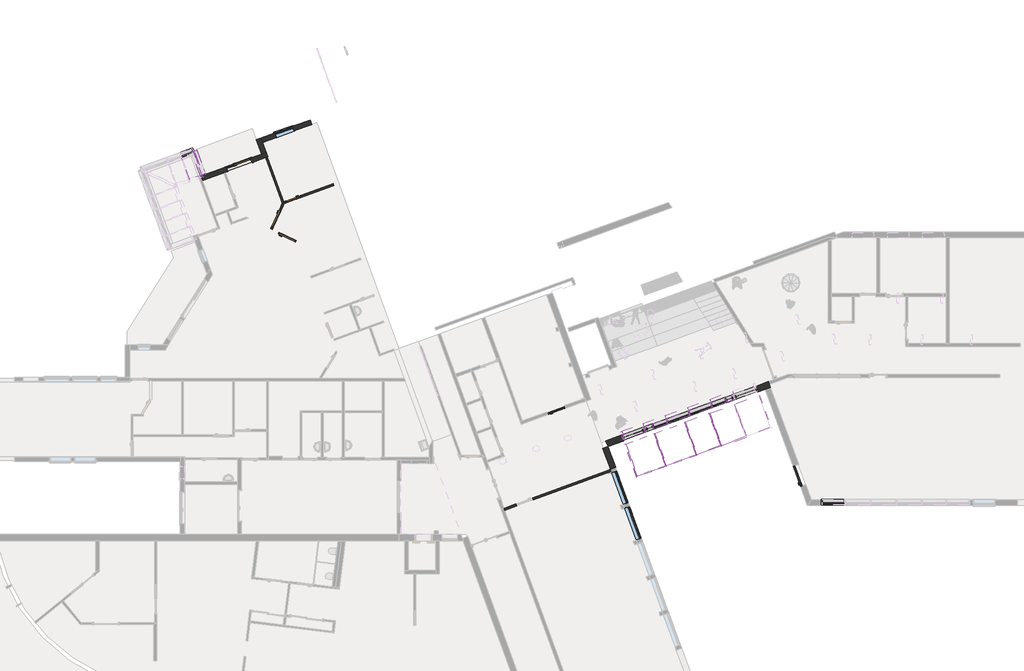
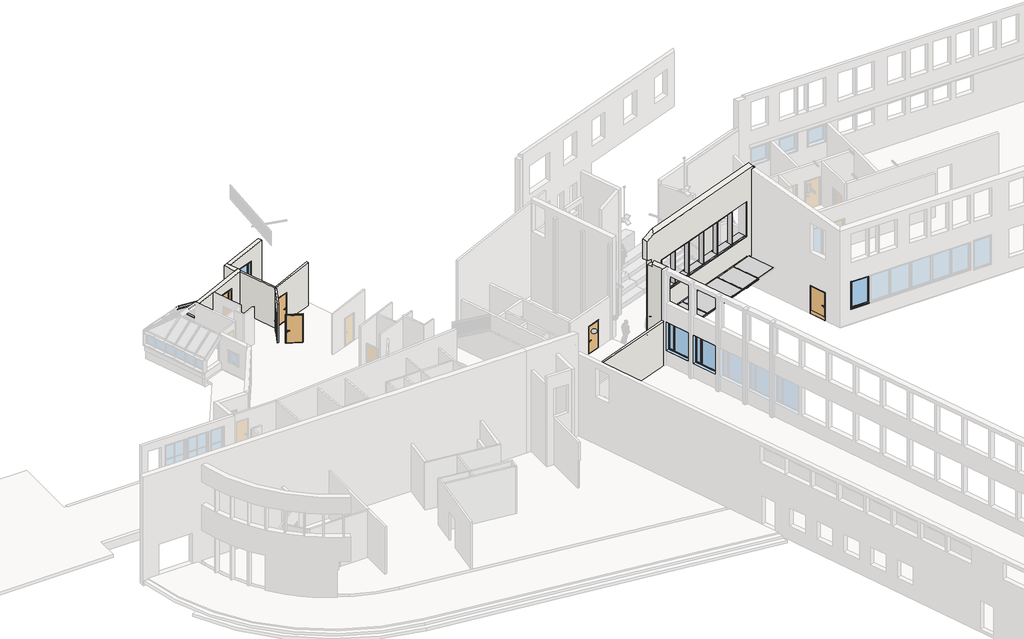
# One storey, part 9 of 13: 51 members, 13 walls, 11 doors, 6 plates, 6 windows.
"""IFC4 building model written with IfcOpenShell, lengths in millimetres."""

from ifc_helpers import new_model, si_unit, frame, origin, place, context, project, spatial, polyline, outline, extrude, faceted_brep, transform, mapped, element, save
from components import door_10x21_f2746e1a, door_11x21_133cae72, door_11x21_32893f3e, door_4x21_9b28eff4, door_9x21_316ed650, door_sgl_ex_12x21m_tre_kledning_16f67397, m_curtain_wall_sgl_glass_m_curtain_wall_sgl_glass_8ad9dc3e, m_curtain_wall_sgl_glass_m_curtain_wall_sgl_glass_723613c0, m_curtain_wall_sgl_glass_m_curtain_wall_sgl_glass_b9642ed1, m_curtain_wall_sgl_glass_m_curtain_wall_sgl_glass_abddcc44, rectangular_mullion_100_x_500mm_ae4d4c62, rectangular_mullion_100_x_500mm_b3343f74, rectangular_mullion_100_x_500mm_26d26932, rectangular_mullion_50_x_100mm_46c47fc3, rectangular_mullion_50_x_100mm_dbebb1b2, rectangular_mullion_50_x_100mm_ab75951c, rectangular_mullion_50_x_100mm_7429a864, rectangular_mullion_50_x_100mm_168a4457, rectangular_mullion_50_x_100mm_9513a79f, rectangular_mullion_50_x_100mm_c09c87a4, rectangular_mullion_50_x_100mm_cream_28181c7c, rectangular_mullion_50_x_100mm_cream_3a46165d, rectangular_mullion_50_x_150mm_21f2cfc2, rectangular_mullion_50_x_150mm_be18659e, rectangular_mullion_50_x_150mm_b6e7ad0f, rectangular_mullion_50_x_150mm_c4449b0d, rectangular_mullion_50_x_150mm_49e73c1b, rectangular_mullion_50_x_150mm_053de50f, rectangular_mullion_50_x_50mm_b0cb055a, rectangular_mullion_50_x_50mm_a40bebd4, rectangular_mullion_50_x_50mm_f585af09, rectangular_mullion_50_x_50mm_df29dcbb, rectangular_mullion_50_x_50mm_cc18e0a2, rectangular_mullion_50_x_50mm_b55e1ea5, system_panel_glazed_14bef62c, system_panel_glazed_47bd4e19, system_panel_glazed_3bba1568, system_panel_glazed_70b2b260, window_11x13_gh_121f46ad, window_193x212_1140f226, curtain_wall_awning_curtain_wall_awning_72255bb9, curtain_wall_awning_curtain_wall_awning_dec480bf

model = new_model("IFC4")

# Units and contexts
model_context = context("Model", 3, world=origin())
ifc_project = project(units=[si_unit("LENGTHUNIT", "METRE", prefix="MILLI")], contexts=[model_context])

# Site, building, storey
site = spatial("IfcSite", under=ifc_project)
building = spatial("IfcBuilding", under=site)
storey = spatial("IfcBuildingStorey", under=building, Name="1.0 første etg hovedbygg", Elevation=2500.0)

# Doors
placement = place(None, origin())
door_10x21_shape = door_10x21_f2746e1a(model_context)
element("IfcDoor", 1, ObjectType="Innerdør Slett (Diplomat) : 10x21", at=placement, inside=storey, context=model_context, shape_type="MappedRepresentation", body=[
    mapped(door_10x21_shape, transform((32133.6013591, 6953.5347889, 2500.0), x_axis=(-0.9396920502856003, -0.34202171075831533, 0.0), y_axis=(0.34202171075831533, -0.9396920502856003, 0.0), z_axis=(0.0, 0.0, 1.0))),
])
door_11x21_shape = door_11x21_133cae72(model_context)
element("IfcDoor", 2, ObjectType="Innerdør Slett (Diplomat) : 11x21", at=placement, inside=storey, context=model_context, shape_type="MappedRepresentation", body=[
    mapped(door_11x21_shape, transform((16839.1118708, 16742.0659295, 2500.0), x_axis=(-0.9063077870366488, 0.42261826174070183, 0.0), y_axis=(-0.42261826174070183, -0.9063077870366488, 0.0), z_axis=(0.0, 0.0, 1.0))),
])
element("IfcDoor", 3, ObjectType="Innerdør Slett (Diplomat) : 11x21", at=placement, inside=storey, context=model_context, shape_type="MappedRepresentation", body=[
    mapped(door_11x21_shape, transform((16157.6992822, 17773.2804728, 2500.0), x_axis=(0.4226182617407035, 0.9063077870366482, 0.0), y_axis=(-0.9063077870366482, 0.4226182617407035, 0.0), z_axis=(0.0, 0.0, 1.0))),
])
door_11x21_2_shape = door_11x21_32893f3e(model_context)
element("IfcDoor", 4, ObjectType="FPS Bangstad : 11x21", at=placement, inside=storey, context=model_context, shape_type="MappedRepresentation", body=[
    mapped(door_11x21_2_shape, transform((14292.2898842, 20967.2185526, 2500.0), x_axis=(-0.9396926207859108, -0.3420201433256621, 0.0), y_axis=(0.3420201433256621, -0.9396926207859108, 0.0), z_axis=(0.0, 0.0, 1.0))),
])
door_4x21_shape = door_4x21_9b28eff4(model_context)
element("IfcDoor", 5, ObjectType="Sidefelt HS : 4x21", at=placement, inside=storey, context=model_context, shape_type="MappedRepresentation", body=[
    mapped(door_4x21_shape, transform((13835.6283287, 20801.0073393, 2500.0), x_axis=(0.9396926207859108, 0.3420201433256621, 0.0), y_axis=(-0.3420201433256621, 0.9396926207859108, 0.0), z_axis=(0.0, 0.0, 1.0))),
])
door_9x21_shape = door_9x21_316ed650(model_context)
element("IfcDoor", 6, ObjectType="Innerdør Slett (Diplomat) : 9x21", at=placement, inside=storey, context=model_context, shape_type="MappedRepresentation", body=[
    mapped(door_9x21_shape, transform((17087.7649507, 18902.2322108, 2500.0), x_axis=(0.9396926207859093, 0.3420201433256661, 0.0), y_axis=(-0.3420201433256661, 0.9396926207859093, 0.0), z_axis=(0.0, 0.0, 1.0))),
])
door_sgl_ex_12x21m_tre_kledning_shape = door_sgl_ex_12x21m_tre_kledning_16f67397(model_context)
element("IfcDoor", 7, ObjectType="Door-Sgl : EX 12x21M_tre kledning", at=placement, inside=storey, context=model_context, shape_type="MappedRepresentation", body=[
    mapped(door_sgl_ex_12x21m_tre_kledning_shape, transform((45900.4377172, 3224.6967646, 2500.0), x_axis=(-0.3420201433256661, 0.9396926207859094, 0.0), y_axis=(-0.9396926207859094, -0.3420201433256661, 0.0), z_axis=(0.0, 0.0, 1.0))),
])
m_curtain_wall_sgl_glass_m_curtain_wall_sgl_glass_shape = m_curtain_wall_sgl_glass_m_curtain_wall_sgl_glass_8ad9dc3e(model_context)
element("IfcDoor", 8, ObjectType="M_Curtain Wall Sgl Glass : M_Curtain Wall Sgl Glass", at=placement, inside=storey, context=model_context, shape_type="MappedRepresentation", body=[
    mapped(m_curtain_wall_sgl_glass_m_curtain_wall_sgl_glass_shape, transform((36496.3007628, 5592.0420433, 2550.0), x_axis=(-0.9396919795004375, -0.3420219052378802, 0.0), y_axis=(0.3420219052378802, -0.9396919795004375, 0.0), z_axis=(0.0, 0.0, 1.0))),
])
m_curtain_wall_sgl_glass_m_curtain_wall_sgl_glass_2_shape = m_curtain_wall_sgl_glass_m_curtain_wall_sgl_glass_723613c0(model_context)
element("IfcDoor", 9, ObjectType="M_Curtain Wall Sgl Glass : M_Curtain Wall Sgl Glass", at=placement, inside=storey, context=model_context, shape_type="MappedRepresentation", body=[
    mapped(m_curtain_wall_sgl_glass_m_curtain_wall_sgl_glass_2_shape, transform((37353.7696941, 5904.1370318, 2550.0), x_axis=(0.9396919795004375, 0.3420219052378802, 0.0), y_axis=(-0.3420219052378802, 0.9396919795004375, 0.0), z_axis=(0.0, 0.0, 1.0))),
])
m_curtain_wall_sgl_glass_m_curtain_wall_sgl_glass_3_shape = m_curtain_wall_sgl_glass_m_curtain_wall_sgl_glass_b9642ed1(model_context)
element("IfcDoor", 10, ObjectType="M_Curtain Wall Sgl Glass : M_Curtain Wall Sgl Glass", at=placement, inside=storey, context=model_context, shape_type="MappedRepresentation", body=[
    mapped(m_curtain_wall_sgl_glass_m_curtain_wall_sgl_glass_3_shape, transform((42815.7293249, 7892.139356, 2550.0), x_axis=(0.9396919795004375, 0.3420219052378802, 0.0), y_axis=(-0.3420219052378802, 0.9396919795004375, 0.0), z_axis=(0.0, 0.0, 1.0))),
])
m_curtain_wall_sgl_glass_m_curtain_wall_sgl_glass_4_shape = m_curtain_wall_sgl_glass_m_curtain_wall_sgl_glass_abddcc44(model_context)
element("IfcDoor", 11, ObjectType="M_Curtain Wall Sgl Glass : M_Curtain Wall Sgl Glass", at=placement, inside=storey, context=model_context, shape_type="MappedRepresentation", body=[
    mapped(m_curtain_wall_sgl_glass_m_curtain_wall_sgl_glass_4_shape, transform((41958.2603936, 7580.0443675, 2550.0), x_axis=(-0.9396919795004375, -0.3420219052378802, 0.0), y_axis=(0.3420219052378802, -0.9396919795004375, 0.0), z_axis=(0.0, 0.0, 1.0))),
])

# Members
rectangular_mullion_100_x_500mm_shape = rectangular_mullion_100_x_500mm_ae4d4c62(model_context)
element("IfcMember", 12, ObjectType="Rectangular Mullion : 100 x 500mm", at=placement, inside=storey, context=model_context, shape_type="MappedRepresentation", body=[
    mapped(rectangular_mullion_100_x_500mm_shape, transform((42193.1833885, 7665.5498438, 6370.0), x_axis=(0.0, 0.0, -1.0), y_axis=(0.34202190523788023, -0.9396919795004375, 0.0), z_axis=(-0.9396919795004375, -0.34202190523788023, 0.0))),
])
rectangular_mullion_100_x_500mm_2_shape = rectangular_mullion_100_x_500mm_b3343f74(model_context)
element("IfcMember", 13, ObjectType="Rectangular Mullion : 100 x 500mm", at=placement, inside=storey, context=model_context, shape_type="MappedRepresentation", body=[
    mapped(rectangular_mullion_100_x_500mm_2_shape, transform((38387.4308715, 6280.3611276, 8970.0), x_axis=(0.0, 0.0, 1.0), y_axis=(0.34202190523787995, -0.9396919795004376, 0.0), z_axis=(0.9396919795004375, 0.3420219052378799, 0.0))),
])
element("IfcMember", 14, ObjectType="Rectangular Mullion : 100 x 500mm", at=placement, inside=storey, context=model_context, shape_type="MappedRepresentation", body=[
    mapped(rectangular_mullion_100_x_500mm_2_shape, transform((39656.0150438, 6742.0906997, 8970.0), x_axis=(0.0, 0.0, 1.0), y_axis=(0.34202190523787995, -0.9396919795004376, 0.0), z_axis=(0.9396919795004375, 0.3420219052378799, 0.0))),
])
element("IfcMember", 15, ObjectType="Rectangular Mullion : 100 x 500mm", at=placement, inside=storey, context=model_context, shape_type="MappedRepresentation", body=[
    mapped(rectangular_mullion_100_x_500mm_2_shape, transform((42193.1833885, 7665.5498438, 8970.0), x_axis=(0.0, 0.0, 1.0), y_axis=(0.34202190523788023, -0.9396919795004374, 0.0), z_axis=(0.9396919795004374, 0.34202190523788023, 0.0))),
])
element("IfcMember", 16, ObjectType="Rectangular Mullion : 100 x 500mm", at=placement, inside=storey, context=model_context, shape_type="MappedRepresentation", body=[
    mapped(rectangular_mullion_100_x_500mm_2_shape, transform((40924.5992162, 7203.8202717, 8970.0), x_axis=(0.0, 0.0, 1.0), y_axis=(0.34202190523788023, -0.9396919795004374, 0.0), z_axis=(0.9396919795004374, 0.34202190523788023, 0.0))),
])
element("IfcMember", 17, ObjectType="Rectangular Mullion : 100 x 500mm", at=placement, inside=storey, context=model_context, shape_type="MappedRepresentation", body=[
    mapped(rectangular_mullion_100_x_500mm_2_shape, transform((37118.8466992, 5818.6315555, 6370.0), x_axis=(0.0, 0.0, -1.0), y_axis=(0.34202190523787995, -0.9396919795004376, 0.0), z_axis=(-0.9396919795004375, -0.3420219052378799, 0.0))),
])
element("IfcMember", 18, ObjectType="Rectangular Mullion : 100 x 500mm", at=placement, inside=storey, context=model_context, shape_type="MappedRepresentation", body=[
    mapped(rectangular_mullion_100_x_500mm_2_shape, transform((38387.4308715, 6280.3611276, 6370.0), x_axis=(0.0, 0.0, -1.0), y_axis=(0.34202190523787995, -0.9396919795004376, 0.0), z_axis=(-0.9396919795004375, -0.3420219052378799, 0.0))),
])
element("IfcMember", 19, ObjectType="Rectangular Mullion : 100 x 500mm", at=placement, inside=storey, context=model_context, shape_type="MappedRepresentation", body=[
    mapped(rectangular_mullion_100_x_500mm_2_shape, transform((39656.0150438, 6742.0906997, 6370.0), x_axis=(0.0, 0.0, -1.0), y_axis=(0.342021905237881, -0.9396919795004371, 0.0), z_axis=(-0.9396919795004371, -0.342021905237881, 0.0))),
])
element("IfcMember", 20, ObjectType="Rectangular Mullion : 100 x 500mm", at=placement, inside=storey, context=model_context, shape_type="MappedRepresentation", body=[
    mapped(rectangular_mullion_100_x_500mm_2_shape, transform((40924.5992162, 7203.8202717, 6370.0), x_axis=(0.0, 0.0, -1.0), y_axis=(0.34202190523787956, -0.9396919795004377, 0.0), z_axis=(-0.9396919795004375, -0.3420219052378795, 0.0))),
])
element("IfcMember", 21, ObjectType="Rectangular Mullion : 100 x 500mm", at=placement, inside=storey, context=model_context, shape_type="MappedRepresentation", body=[
    mapped(rectangular_mullion_100_x_500mm_shape, transform((37118.8466992, 5818.6315555, 8970.0), x_axis=(0.0, 0.0, 1.0), y_axis=(0.34202190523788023, -0.9396919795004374, 0.0), z_axis=(0.9396919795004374, 0.34202190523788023, 0.0))),
])
element("IfcMember", 22, ObjectType="Rectangular Mullion : 100 x 500mm", at=placement, inside=storey, context=model_context, shape_type="MappedRepresentation", body=[
    mapped(rectangular_mullion_100_x_500mm_shape, transform((35944.2317248, 5391.104174, 6370.0), x_axis=(0.0, 0.0, -1.0), y_axis=(0.34202190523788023, -0.9396919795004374, 0.0), z_axis=(-0.9396919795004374, -0.34202190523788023, 0.0))),
])
rectangular_mullion_100_x_500mm_3_shape = rectangular_mullion_100_x_500mm_26d26932(model_context)
element("IfcMember", 23, ObjectType="Rectangular Mullion : 100 x 500mm", at=placement, inside=storey, context=model_context, shape_type="MappedRepresentation", body=[
    mapped(rectangular_mullion_100_x_500mm_3_shape, transform((35850.2625269, 5356.9019835, 8970.0), x_axis=(-0.9396919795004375, -0.3420219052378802, 0.0), y_axis=(0.3420219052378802, -0.9396919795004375, 0.0), z_axis=(0.0, 0.0, 1.0))),
])
rectangular_mullion_50_x_100mm_shape = rectangular_mullion_50_x_100mm_46c47fc3(model_context)
element("IfcMember", 24, ObjectType="Rectangular Mullion : 50 x 100mm", at=placement, inside=storey, context=model_context, shape_type="MappedRepresentation", body=[
    mapped(rectangular_mullion_50_x_100mm_shape, transform((12000.3678831, 20273.4986309, 4978.5236025), x_axis=(0.3420201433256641, -0.9396926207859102, 0.0), y_axis=(0.9396926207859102, 0.3420201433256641, 0.0), z_axis=(0.0, 0.0, 1.0))),
])
rectangular_mullion_50_x_100mm_2_shape = rectangular_mullion_50_x_100mm_dbebb1b2(model_context)
element("IfcMember", 25, ObjectType="Rectangular Mullion : 50 x 100mm", at=placement, inside=storey, context=model_context, shape_type="MappedRepresentation", body=[
    mapped(rectangular_mullion_50_x_100mm_2_shape, transform((11492.1185252, 21669.9022651, 3938.0), x_axis=(0.9396926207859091, 0.3420201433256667, 0.0), y_axis=(-0.3420201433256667, 0.9396926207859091, 0.0), z_axis=(0.0, 0.0, 1.0))),
])
rectangular_mullion_50_x_100mm_3_shape = rectangular_mullion_50_x_100mm_ab75951c(model_context)
element("IfcMember", 26, ObjectType="Rectangular Mullion : 50 x 100mm", at=placement, inside=storey, context=model_context, shape_type="MappedRepresentation", body=[
    mapped(rectangular_mullion_50_x_100mm_3_shape, transform((12000.3678831, 20273.4986309, 3900.0), x_axis=(0.3420201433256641, -0.9396926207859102, 0.0), y_axis=(0.9396926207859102, 0.3420201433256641, 0.0), z_axis=(0.0, 0.0, 1.0))),
])
rectangular_mullion_50_x_100mm_4_shape = rectangular_mullion_50_x_100mm_7429a864(model_context)
element("IfcMember", 27, ObjectType="Rectangular Mullion : 50 x 100mm", at=placement, inside=storey, context=model_context, shape_type="MappedRepresentation", body=[
    mapped(rectangular_mullion_50_x_100mm_4_shape, transform((11492.1185252, 21669.9022651, 3900.0), x_axis=(-0.3420201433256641, 0.9396926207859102, 0.0), y_axis=(0.9396926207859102, 0.3420201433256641, 0.0), z_axis=(0.0, 0.0, -1.0))),
])
rectangular_mullion_50_x_100mm_5_shape = rectangular_mullion_50_x_100mm_168a4457(model_context)
element("IfcMember", 28, ObjectType="Rectangular Mullion : 50 x 100mm", at=placement, inside=storey, context=model_context, shape_type="MappedRepresentation", body=[
    mapped(rectangular_mullion_50_x_100mm_5_shape, transform((11509.2195324, 21622.917634, 3900.0), x_axis=(0.0, 0.0, 1.0), y_axis=(0.9396926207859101, 0.34202014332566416, 0.0), z_axis=(-0.34202014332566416, 0.9396926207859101, 0.0))),
])
rectangular_mullion_50_x_100mm_6_shape = rectangular_mullion_50_x_100mm_9513a79f(model_context)
element("IfcMember", 29, ObjectType="Rectangular Mullion : 50 x 100mm", at=placement, inside=storey, context=model_context, shape_type="MappedRepresentation", body=[
    mapped(rectangular_mullion_50_x_100mm_6_shape, transform((47141.6718408, 1682.166916, 5650.0), x_axis=(-1.0, 0.0, 0.0), y_axis=(0.0, -1.0, 0.0), z_axis=(0.0, 0.0, 1.0))),
])
rectangular_mullion_50_x_100mm_7_shape = rectangular_mullion_50_x_100mm_c09c87a4(model_context)
element("IfcMember", 30, ObjectType="Rectangular Mullion : 50 x 100mm", at=placement, inside=storey, context=model_context, shape_type="MappedRepresentation", body=[
    mapped(rectangular_mullion_50_x_100mm_7_shape, transform((11515.6108407, 21678.4527686, 3938.0), x_axis=(0.9396926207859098, 0.3420201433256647, 0.0), y_axis=(0.1961746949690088, -0.5389855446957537, -0.8191520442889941), z_axis=(-0.28016649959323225, 0.7697511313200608, -0.5735764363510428))),
])
rectangular_mullion_50_x_100mm_cream_shape = rectangular_mullion_50_x_100mm_cream_28181c7c(model_context)
element("IfcMember", 31, ObjectType="Rectangular Mullion : 50 x 100mm Cream", at=placement, inside=storey, context=model_context, shape_type="MappedRepresentation", body=[
    mapped(rectangular_mullion_50_x_100mm_cream_shape, transform((41746.8296982, 7503.0894388, 2500.0), x_axis=(0.0, 0.0, -1.0), y_axis=(0.34202190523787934, -0.9396919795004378, 0.0), z_axis=(-0.9396919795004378, -0.34202190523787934, 0.0))),
])
rectangular_mullion_50_x_100mm_cream_2_shape = rectangular_mullion_50_x_100mm_cream_3a46165d(model_context)
element("IfcMember", 32, ObjectType="Rectangular Mullion : 50 x 100mm Cream", at=placement, inside=storey, context=model_context, shape_type="MappedRepresentation", body=[
    mapped(rectangular_mullion_50_x_100mm_cream_2_shape, transform((42193.1833885, 7665.5498438, 2500.0), x_axis=(0.0, 0.0, -1.0), y_axis=(0.34202190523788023, -0.9396919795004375, 0.0), z_axis=(-0.9396919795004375, -0.34202190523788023, 0.0))),
])
element("IfcMember", 33, ObjectType="Rectangular Mullion : 50 x 100mm Cream", at=placement, inside=storey, context=model_context, shape_type="MappedRepresentation", body=[
    mapped(rectangular_mullion_50_x_100mm_cream_shape, transform((37118.8466992, 5818.6315555, 2500.0), x_axis=(0.0, 0.0, -1.0), y_axis=(0.34202190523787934, -0.9396919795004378, 0.0), z_axis=(-0.9396919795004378, -0.34202190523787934, 0.0))),
])
element("IfcMember", 34, ObjectType="Rectangular Mullion : 50 x 100mm Cream", at=placement, inside=storey, context=model_context, shape_type="MappedRepresentation", body=[
    mapped(rectangular_mullion_50_x_100mm_cream_2_shape, transform((35897.2471258, 5374.0030787, 2500.0), x_axis=(0.0, 0.0, -1.0), y_axis=(0.34202190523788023, -0.9396919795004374, 0.0), z_axis=(-0.9396919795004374, -0.34202190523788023, 0.0))),
])
rectangular_mullion_50_x_150mm_shape = rectangular_mullion_50_x_150mm_21f2cfc2(model_context)
element("IfcMember", 35, ObjectType="Rectangular Mullion : 50 x 150mm", at=placement, inside=storey, context=model_context, shape_type="MappedRepresentation", body=[
    mapped(rectangular_mullion_50_x_150mm_shape, transform((11492.1185252, 21669.9022651, 3938.0), x_axis=(-0.19617469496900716, 0.5389855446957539, 0.8191520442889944), y_axis=(0.9396926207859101, 0.34202014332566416, 0.0), z_axis=(-0.28016649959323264, 0.7697511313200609, -0.5735764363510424))),
])
rectangular_mullion_50_x_150mm_2_shape = rectangular_mullion_50_x_150mm_be18659e(model_context)
element("IfcMember", 36, ObjectType="Rectangular Mullion : 50 x 150mm", at=placement, inside=storey, context=model_context, shape_type="MappedRepresentation", body=[
    mapped(rectangular_mullion_50_x_150mm_2_shape, transform((11445.1338942, 21652.8012579, 3000.0), x_axis=(0.0, 0.0, -1.0), y_axis=(-0.3420201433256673, 0.9396926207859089, 0.0), z_axis=(0.9396926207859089, 0.3420201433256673, 0.0))),
])
rectangular_mullion_50_x_150mm_3_shape = rectangular_mullion_50_x_150mm_b6e7ad0f(model_context)
element("IfcMember", 37, ObjectType="Rectangular Mullion : 50 x 150mm", at=placement, inside=storey, context=model_context, shape_type="MappedRepresentation", body=[
    mapped(rectangular_mullion_50_x_150mm_3_shape, transform((37588.6926889, 5989.6425081, 2500.0), x_axis=(0.9396919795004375, 0.3420219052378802, 0.0), y_axis=(0.3420219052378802, -0.9396919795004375, 0.0), z_axis=(0.0, 0.0, -1.0))),
])
element("IfcMember", 38, ObjectType="Rectangular Mullion : 50 x 150mm", at=placement, inside=storey, context=model_context, shape_type="MappedRepresentation", body=[
    mapped(rectangular_mullion_50_x_150mm_3_shape, transform((39656.0150438, 6742.0906997, 2500.0), x_axis=(0.9396919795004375, 0.3420219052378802, 0.0), y_axis=(0.3420219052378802, -0.9396919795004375, 0.0), z_axis=(0.0, 0.0, -1.0))),
])
element("IfcMember", 39, ObjectType="Rectangular Mullion : 50 x 150mm", at=placement, inside=storey, context=model_context, shape_type="MappedRepresentation", body=[
    mapped(rectangular_mullion_50_x_150mm_3_shape, transform((41723.3373987, 7494.5388912, 2500.0), x_axis=(0.9396919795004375, 0.3420219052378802, 0.0), y_axis=(0.3420219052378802, -0.9396919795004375, 0.0), z_axis=(0.0, 0.0, -1.0))),
])
rectangular_mullion_50_x_150mm_4_shape = rectangular_mullion_50_x_150mm_c4449b0d(model_context)
element("IfcMember", 40, ObjectType="Rectangular Mullion : 50 x 150mm", at=placement, inside=storey, context=model_context, shape_type="MappedRepresentation", body=[
    mapped(rectangular_mullion_50_x_150mm_4_shape, transform((39632.5227444, 6733.540152, 4900.0), x_axis=(0.0, 0.0, 1.0), y_axis=(0.34202190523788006, -0.9396919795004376, 0.0), z_axis=(0.9396919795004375, 0.34202190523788, 0.0))),
])
element("IfcMember", 41, ObjectType="Rectangular Mullion : 50 x 150mm", at=placement, inside=storey, context=model_context, shape_type="MappedRepresentation", body=[
    mapped(rectangular_mullion_50_x_150mm_4_shape, transform((41699.8450993, 7485.9883436, 4900.0), x_axis=(0.0, 0.0, 1.0), y_axis=(0.3420219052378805, -0.9396919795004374, 0.0), z_axis=(0.9396919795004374, 0.3420219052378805, 0.0))),
])
element("IfcMember", 42, ObjectType="Rectangular Mullion : 50 x 150mm", at=placement, inside=storey, context=model_context, shape_type="MappedRepresentation", body=[
    mapped(rectangular_mullion_50_x_150mm_4_shape, transform((37612.1849884, 5998.1930558, 2500.0), x_axis=(0.0, 0.0, -1.0), y_axis=(0.34202190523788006, -0.9396919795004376, 0.0), z_axis=(-0.9396919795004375, -0.34202190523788, 0.0))),
])
element("IfcMember", 43, ObjectType="Rectangular Mullion : 50 x 150mm", at=placement, inside=storey, context=model_context, shape_type="MappedRepresentation", body=[
    mapped(rectangular_mullion_50_x_150mm_4_shape, transform((39679.5073433, 6750.6412473, 2500.0), x_axis=(0.0, 0.0, -1.0), y_axis=(0.3420219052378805, -0.9396919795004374, 0.0), z_axis=(-0.9396919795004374, -0.3420219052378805, 0.0))),
])
element("IfcMember", 44, ObjectType="Rectangular Mullion : 50 x 150mm", at=placement, inside=storey, context=model_context, shape_type="MappedRepresentation", body=[
    mapped(rectangular_mullion_50_x_100mm_cream_2_shape, transform((37118.8466992, 5818.6315555, 4900.0), x_axis=(0.0, 0.0, 1.0), y_axis=(0.34202190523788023, -0.9396919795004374, 0.0), z_axis=(0.9396919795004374, 0.34202190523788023, 0.0))),
])
element("IfcMember", 45, ObjectType="Rectangular Mullion : 50 x 150mm", at=placement, inside=storey, context=model_context, shape_type="MappedRepresentation", body=[
    mapped(rectangular_mullion_50_x_100mm_cream_shape, transform((37565.2003894, 5981.0919605, 4900.0), x_axis=(0.0, 0.0, 1.0), y_axis=(0.34202190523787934, -0.9396919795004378, 0.0), z_axis=(0.9396919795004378, 0.34202190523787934, 0.0))),
])
element("IfcMember", 46, ObjectType="Rectangular Mullion : 50 x 150mm", at=placement, inside=storey, context=model_context, shape_type="MappedRepresentation", body=[
    mapped(rectangular_mullion_50_x_100mm_cream_shape, transform((42193.1833885, 7665.5498438, 4900.0), x_axis=(0.0, 0.0, 1.0), y_axis=(0.34202190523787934, -0.9396919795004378, 0.0), z_axis=(0.9396919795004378, 0.34202190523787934, 0.0))),
])
rectangular_mullion_50_x_150mm_5_shape = rectangular_mullion_50_x_150mm_49e73c1b(model_context)
element("IfcMember", 47, ObjectType="Rectangular Mullion : 50 x 150mm", at=placement, inside=storey, context=model_context, shape_type="MappedRepresentation", body=[
    mapped(rectangular_mullion_50_x_150mm_5_shape, transform((35850.2625269, 5356.9019835, 4900.0), x_axis=(-0.9396919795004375, -0.3420219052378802, 0.0), y_axis=(0.3420219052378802, -0.9396919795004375, 0.0), z_axis=(0.0, 0.0, 1.0))),
])
element("IfcMember", 48, ObjectType="Rectangular Mullion : 50 x 150mm", at=placement, inside=storey, context=model_context, shape_type="MappedRepresentation", body=[
    mapped(rectangular_mullion_50_x_150mm_3_shape, transform((37118.8466992, 5818.6315555, 6470.0), x_axis=(0.9396919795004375, 0.3420219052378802, 0.0), y_axis=(0.3420219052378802, -0.9396919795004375, 0.0), z_axis=(0.0, 0.0, -1.0))),
])
element("IfcMember", 49, ObjectType="Rectangular Mullion : 50 x 150mm", at=placement, inside=storey, context=model_context, shape_type="MappedRepresentation", body=[
    mapped(rectangular_mullion_50_x_150mm_3_shape, transform((38387.4308715, 6280.3611276, 6470.0), x_axis=(0.9396919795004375, 0.3420219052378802, 0.0), y_axis=(0.3420219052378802, -0.9396919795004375, 0.0), z_axis=(0.0, 0.0, -1.0))),
])
element("IfcMember", 50, ObjectType="Rectangular Mullion : 50 x 150mm", at=placement, inside=storey, context=model_context, shape_type="MappedRepresentation", body=[
    mapped(rectangular_mullion_50_x_150mm_3_shape, transform((39656.0150438, 6742.0906997, 6470.0), x_axis=(0.9396919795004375, 0.3420219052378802, 0.0), y_axis=(0.3420219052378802, -0.9396919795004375, 0.0), z_axis=(0.0, 0.0, -1.0))),
])
element("IfcMember", 51, ObjectType="Rectangular Mullion : 50 x 150mm", at=placement, inside=storey, context=model_context, shape_type="MappedRepresentation", body=[
    mapped(rectangular_mullion_50_x_150mm_3_shape, transform((42193.1833885, 7665.5498438, 6470.0), x_axis=(0.9396919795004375, 0.3420219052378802, 0.0), y_axis=(0.3420219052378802, -0.9396919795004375, 0.0), z_axis=(0.0, 0.0, -1.0))),
])
element("IfcMember", 52, ObjectType="Rectangular Mullion : 50 x 150mm", at=placement, inside=storey, context=model_context, shape_type="MappedRepresentation", body=[
    mapped(rectangular_mullion_50_x_150mm_3_shape, transform((40924.5992162, 7203.8202717, 6470.0), x_axis=(0.9396919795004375, 0.3420219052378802, 0.0), y_axis=(0.3420219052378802, -0.9396919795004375, 0.0), z_axis=(0.0, 0.0, -1.0))),
])
rectangular_mullion_50_x_150mm_6_shape = rectangular_mullion_50_x_150mm_053de50f(model_context)
element("IfcMember", 53, ObjectType="Rectangular Mullion : 50 x 150mm", at=placement, inside=storey, context=model_context, shape_type="MappedRepresentation", body=[
    mapped(rectangular_mullion_50_x_150mm_6_shape, transform((47191.6718408, 1682.166916, 3550.0), x_axis=(0.0, 0.0, -1.0), y_axis=(0.0, -1.0, 0.0), z_axis=(-1.0, 0.0, 0.0))),
])
rectangular_mullion_50_x_50mm_shape = rectangular_mullion_50_x_50mm_b0cb055a(model_context)
element("IfcMember", 54, ObjectType="Rectangular Mullion : 50 x 50mm", at=placement, inside=storey, context=model_context, shape_type="MappedRepresentation", body=[
    mapped(rectangular_mullion_50_x_50mm_shape, transform((37118.8466992, 5818.6315555, 2550.0), x_axis=(0.9396919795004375, 0.3420219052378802, 0.0), y_axis=(0.3420219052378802, -0.9396919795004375, 0.0), z_axis=(0.0, 0.0, -1.0))),
])
rectangular_mullion_50_x_50mm_2_shape = rectangular_mullion_50_x_50mm_a40bebd4(model_context)
element("IfcMember", 55, ObjectType="Rectangular Mullion : 50 x 50mm", at=placement, inside=storey, context=model_context, shape_type="MappedRepresentation", body=[
    mapped(rectangular_mullion_50_x_50mm_2_shape, transform((37670.2282592, 5619.2049731, 5000.0), x_axis=(0.9396926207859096, 0.3420201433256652, 0.0), y_axis=(0.0, 0.0, -1.0), z_axis=(-0.3420201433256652, 0.9396926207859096, 0.0))),
])
rectangular_mullion_50_x_50mm_3_shape = rectangular_mullion_50_x_50mm_f585af09(model_context)
element("IfcMember", 56, ObjectType="Rectangular Mullion : 50 x 50mm", at=placement, inside=storey, context=model_context, shape_type="MappedRepresentation", body=[
    mapped(rectangular_mullion_50_x_50mm_3_shape, transform((42911.7773583, 5398.6185288, 5000.0), x_axis=(0.3420200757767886, -0.9396926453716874, 0.0), y_axis=(0.0, 0.0, -1.0), z_axis=(0.9396926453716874, 0.3420200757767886, 0.0))),
])
element("IfcMember", 57, ObjectType="Rectangular Mullion : 50 x 50mm", at=placement, inside=storey, context=model_context, shape_type="MappedRepresentation", body=[
    mapped(rectangular_mullion_50_x_50mm_3_shape, transform((41484.009957, 4898.1088941, 5000.0), x_axis=(0.34202007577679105, -0.9396926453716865, 0.0), y_axis=(0.0, 0.0, -1.0), z_axis=(0.9396926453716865, 0.34202007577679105, 0.0))),
])
element("IfcMember", 58, ObjectType="Rectangular Mullion : 50 x 50mm", at=placement, inside=storey, context=model_context, shape_type="MappedRepresentation", body=[
    mapped(rectangular_mullion_50_x_50mm_2_shape, transform((40799.9696703, 6777.4941357, 5000.0), x_axis=(0.9396926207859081, 0.3420201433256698, 0.0), y_axis=(0.0, 0.0, -1.0), z_axis=(-0.3420201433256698, 0.9396926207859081, 0.0))),
])
rectangular_mullion_50_x_50mm_4_shape = rectangular_mullion_50_x_50mm_df29dcbb(model_context)
element("IfcMember", 59, ObjectType="Rectangular Mullion : 50 x 50mm", at=placement, inside=storey, context=model_context, shape_type="MappedRepresentation", body=[
    mapped(rectangular_mullion_50_x_50mm_4_shape, transform((40092.6994959, 4372.5580988, 5000.0), x_axis=(0.34202007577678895, -0.9396926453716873, 0.0), y_axis=(0.0, 0.0, -1.0), z_axis=(0.9396926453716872, 0.3420200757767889, 0.0))),
])
element("IfcMember", 60, ObjectType="Rectangular Mullion : 50 x 50mm", at=placement, inside=storey, context=model_context, shape_type="MappedRepresentation", body=[
    mapped(rectangular_mullion_50_x_50mm_2_shape, transform((39408.6592093, 6251.9433404, 5000.0), x_axis=(0.9396926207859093, 0.34202014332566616, 0.0), y_axis=(0.0, 0.0, -1.0), z_axis=(-0.34202014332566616, 0.9396926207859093, 0.0))),
])
rectangular_mullion_50_x_50mm_5_shape = rectangular_mullion_50_x_50mm_cc18e0a2(model_context)
element("IfcMember", 61, ObjectType="Rectangular Mullion : 50 x 50mm", at=placement, inside=storey, context=model_context, shape_type="MappedRepresentation", body=[
    mapped(rectangular_mullion_50_x_50mm_5_shape, transform((38354.2685459, 3739.8197315, 5000.0), x_axis=(0.3420200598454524, -0.9396926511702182, 0.0), y_axis=(0.0, 0.0, -1.0), z_axis=(0.939692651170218, 0.34202005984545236, 0.0))),
])
rectangular_mullion_50_x_50mm_6_shape = rectangular_mullion_50_x_50mm_b55e1ea5(model_context)
element("IfcMember", 62, ObjectType="Rectangular Mullion : 50 x 50mm", at=placement, inside=storey, context=model_context, shape_type="MappedRepresentation", body=[
    mapped(rectangular_mullion_50_x_50mm_6_shape, transform((36662.8215552, 3124.1835442, 5000.0), x_axis=(-0.9396926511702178, -0.3420200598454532, 0.0), y_axis=(0.0, 0.0, -1.0), z_axis=(0.3420200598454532, -0.9396926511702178, 0.0))),
])

# Plates
system_panel_glazed_shape = system_panel_glazed_14bef62c(model_context)
element("IfcPlate", 63, ObjectType="System Panel : Glazed", at=placement, inside=storey, context=model_context, shape_type="MappedRepresentation", body=[
    mapped(system_panel_glazed_shape, transform((11133.6522684, 21495.8450477, 3966.6788218), x_axis=(-0.9396926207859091, -0.3420201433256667, 0.0), y_axis=(0.1961746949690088, -0.5389855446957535, -0.8191520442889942), z_axis=(0.2801664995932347, -0.7697511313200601, 0.5735764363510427))),
])
system_panel_glazed_2_shape = system_panel_glazed_47bd4e19(model_context)
element("IfcPlate", 64, ObjectType="System Panel : Glazed", at=placement, inside=storey, context=model_context, shape_type="MappedRepresentation", body=[
    mapped(system_panel_glazed_2_shape, transform((43236.3276211, 5462.5175269, 5000.0), x_axis=(1.0, 0.0, 0.0), y_axis=(0.0, 0.0, -1.0), z_axis=(0.0, 1.0, 0.0))),
])
element("IfcPlate", 65, ObjectType="System Panel : Glazed", at=placement, inside=storey, context=model_context, shape_type="MappedRepresentation", body=[
    mapped(system_panel_glazed_2_shape, transform((41832.9449788, 4932.5730474, 5000.0), x_axis=(1.0, 0.0, 0.0), y_axis=(0.0, 0.0, -1.0), z_axis=(0.0, 1.0, 0.0))),
])
element("IfcPlate", 66, ObjectType="System Panel : Glazed", at=placement, inside=storey, context=model_context, shape_type="MappedRepresentation", body=[
    mapped(system_panel_glazed_2_shape, transform((40405.1775774, 4432.0634127, 5000.0), x_axis=(1.0, 0.0, 0.0), y_axis=(0.0, 0.0, -1.0), z_axis=(0.0, 1.0, 0.0))),
])
system_panel_glazed_3_shape = system_panel_glazed_3bba1568(model_context)
element("IfcPlate", 67, ObjectType="System Panel : Glazed", at=placement, inside=storey, context=model_context, shape_type="MappedRepresentation", body=[
    mapped(system_panel_glazed_3_shape, transform((38849.5399376, 3786.8922406, 5000.0), x_axis=(1.0, 0.0, 0.0), y_axis=(0.0, 0.0, -1.0), z_axis=(0.0, 1.0, 0.0))),
])
system_panel_glazed_4_shape = system_panel_glazed_70b2b260(model_context)
element("IfcPlate", 68, ObjectType="System Panel : Glazed", at=placement, inside=storey, context=model_context, shape_type="MappedRepresentation", body=[
    mapped(system_panel_glazed_4_shape, transform((37157.9744871, 3188.2691798, 5000.0), x_axis=(1.0, 0.0, 0.0), y_axis=(0.0, 0.0, -1.0), z_axis=(0.0, 1.0, 0.0))),
])

# Walls
element("IfcWall", 69, ObjectType="Yttervegg Tre 198 Isolert Liggende Kledning", at=placement, inside=storey, context=model_context, shape_type="Brep", body=[
    faceted_brep([(15598.4212139, 21583.0829447, 2500.0), (15390.6649121, 22153.8886929, 2500.0), (15300.3715942, 22401.9675447, 2500.0), (15300.3715942, 22401.9675447, 5482.4124907), (15390.6649121, 22153.8886929, 5482.4124907), (15598.4212139, 21583.0829447, 5482.4124907), (15350.3423621, 21492.7896268, 2500.0), (15350.3423621, 21492.7896268, 5459.3154835), (15052.2927423, 22311.6742269, 5459.3154835), (15052.2927423, 22311.6742269, 2500.0), (15401.0857636, 21511.2587146, 2500.0), (15103.0361439, 22330.1433147, 2500.0)], [[[0, 1, 2, 3, 4, 5]], [[6, 7, 8, 9]], [[2, 1, 0, 10, 11]], [[0, 5, 7, 6, 10]], [[10, 6, 9, 11]], [[3, 2, 11, 9, 8]], [[5, 4, 3, 8, 7]]]),
])
element("IfcWall", 70, ObjectType="Yttervegg Tre 198 Isolert Liggende Kledning", at=placement, inside=storey, context=model_context, shape_type="Brep", body=[
    faceted_brep([(15390.6649121, 22153.8886929, 2500.0), (18196.5870777, 23175.1608408, 2500.0), (18196.5870777, 23175.1608408, 5743.65364), (15390.6649121, 22153.8886929, 5482.4124907), (16166.8510168, 22436.3973312, 3380.0), (16166.8510168, 22436.3973312, 4690.0), (17209.9098259, 22816.0396903, 4690.0), (17209.9098259, 22816.0396903, 3380.0), (18106.2937599, 23423.2396927, 2500.0), (15300.3715942, 22401.9675447, 2500.0), (15300.3715942, 22401.9675447, 5482.4124907), (18106.2937599, 23423.2396927, 5743.65364), (16076.557699, 22684.4761831, 4690.0), (16076.557699, 22684.4761831, 3380.0), (17119.6165081, 23064.1185422, 3380.0), (17119.6165081, 23064.1185422, 4690.0), (15318.840682, 22351.2241432, 2500.0), (18124.7628476, 23372.4962912, 2500.0)], [[[0, 1, 2, 3], [4, 5, 6, 7]], [[8, 9, 10, 11], [12, 13, 14, 15]], [[1, 0, 16, 17]], [[0, 3, 10, 9, 16]], [[2, 1, 17, 8, 11]], [[9, 8, 17, 16]], [[3, 2, 11, 10]], [[4, 13, 12, 5]], [[5, 12, 15, 6]], [[6, 15, 14, 7]], [[13, 4, 7, 14]]]),
])
element("IfcWall", 71, ObjectType="innvendig vegg 98 isolert", at=placement, inside=storey, context=model_context, shape_type="SweptSolid", body=[
    extrude(outline(polyline([(6420.0, -3320.0), (-20.0, -3320.0), (-20.0, 0.0), (695.0, 0.0), (695.0, -2115.0), (1705.0, -2115.0), (1705.0, 0.0), (6420.0, 0.0), (6420.0, -3320.0)])), frame((29176.4478239, 1253.3697804, 2500.0), z_axis=(-0.3420201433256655, 0.9396926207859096, 0.0), x_axis=(0.9396926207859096, 0.3420201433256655, 0.0)), (0.0, 0.0, 1.0), 122.0),
])
element("IfcWall", 72, ObjectType="Yttervegg Tre 198 Isolert Liggende Kledning", at=placement, inside=storey, context=model_context, shape_type="Brep", body=[
    faceted_brep([(15688.7145318, 21335.0040928, 2500.0), (15688.7145318, 21335.0040928, 5482.4124907), (15675.5588351, 21330.2158108, 5481.1876494), (15581.589573, 21296.0137964, 5472.438783), (13288.7686365, 20461.495223, 5258.9691495), (13194.7993744, 20427.2932087, 5250.2202831), (11973.1989674, 19982.6670224, 5136.4850205), (11973.1989674, 19982.6670224, 2500.0), (13194.7993744, 20427.2932087, 2500.0), (13288.7686365, 20461.495223, 2500.0), (13406.2302141, 20504.247741, 2500.0), (13406.2302141, 20504.247741, 4600.0), (14817.6194723, 21017.9514199, 4600.0), (14817.6194723, 21017.9514199, 2500.0), (15581.589573, 21296.0137964, 2500.0), (15675.5588351, 21330.2158108, 2500.0), (15598.4212139, 21583.0829447, 5482.4124907), (15598.4212139, 21583.0829447, 2500.0), (15350.3423621, 21492.7896268, 2500.0), (14727.3261545, 21266.0302718, 2500.0), (14727.3261545, 21266.0302718, 4600.0), (13315.9368962, 20752.3265928, 4600.0), (13315.9368962, 20752.3265928, 2500.0), (12023.8601986, 20282.0491345, 2500.0), (12023.8601986, 20282.0491345, 3000.0), (11882.9056495, 20230.7458743, 3000.0), (11882.9056495, 20230.7458743, 5136.4850205), (15350.3423621, 21492.7896268, 5459.3154835), (15616.8903017, 21532.3395432, 2500.0), (14745.7952422, 21215.2868703, 2500.0), (11928.0523085, 20106.7064483, 2500.0), (12069.0068575, 20158.0097086, 2500.0), (12042.3292863, 20231.305733, 2500.0), (13334.405984, 20701.5831913, 2500.0), (12069.0068575, 20158.0097086, 3000.0), (11928.0523085, 20106.7064483, 3000.0)], [[[0, 1, 2, 3, 4, 5, 6, 7, 8, 9, 10, 11, 12, 13, 14, 15]], [[16, 17, 18, 19, 20, 21, 22, 23, 24, 25, 26, 27]], [[28, 0, 15, 14, 13, 29]], [[7, 30, 31, 32, 33, 10, 9, 8]], [[1, 0, 28, 17, 16]], [[6, 5, 4, 3, 2, 1, 16, 27, 26]], [[25, 24, 34, 35]], [[35, 34, 31, 30]], [[24, 23, 32, 31, 34]], [[17, 28, 29, 19, 18]], [[32, 23, 22, 33]], [[30, 7, 6, 26, 25, 35]], [[20, 12, 11, 21]], [[12, 20, 19, 29, 13]], [[21, 11, 10, 33, 22]]]),
])
element("IfcWall", 73, ObjectType="Yttervegg Tre 250 Isolert Sveitserkledning", at=placement, inside=storey, context=model_context, shape_type="Brep", body=[
    faceted_brep([(44099.7030525, 8172.1755961, 11133.8378776), (44099.7030525, 8172.1755961, 11267.7407187), (44081.3763091, 8165.5051666, 11265.5537032), (44081.3763091, 8165.5051666, 11267.9204842), (35195.0863883, 4931.14055, 11262.9283211), (34671.1696149, 4740.4492841, 11060.0), (34671.1691842, 4740.4491273, 9632.1580351), (35022.6876083, 4868.3921455, 9512.6647973), (35022.6876083, 4868.3921455, 2500.0), (35910.4583798, 5191.5162386, 2500.0), (35910.4583798, 5191.5162386, 4900.0), (43521.9632146, 7961.8942181, 4900.0), (43521.9632146, 7961.8942181, 2500.0), (43951.2314017, 8118.1360072, 2500.0), (44248.1740594, 8226.2149506, 2500.0), (44248.1740594, 8226.2149506, 5750.0), (44248.1740594, 8226.2149506, 6020.0), (44248.1740594, 8226.2149506, 8900.0), (44248.1740594, 8226.2149506, 11133.8378776), (35910.4583798, 5191.5162386, 6370.0), (35910.4583798, 5191.5162386, 8970.0), (43521.9632146, 7961.8942181, 8970.0), (43521.9632146, 7961.8942181, 6370.0), (43979.3113181, 8502.9471642, 11385.7081857), (43979.3113181, 8502.9471642, 11133.8378776), (44127.782969, 8556.9867531, 11133.8378776), (44127.782969, 8556.9867531, 2500.0), (43401.5714802, 8292.6657863, 2500.0), (43401.5714802, 8292.6657863, 4900.0), (35790.0666454, 5522.2878067, 4900.0), (35790.0666454, 5522.2878067, 2500.0), (34902.2958738, 5199.1637137, 2500.0), (34902.2958738, 5199.1637137, 8970.0), (34902.2958738, 5199.1637137, 9512.6647973), (34550.7781175, 5071.2209385, 9632.1578081), (34550.7781175, 5071.2209385, 9772.5495892), (34550.7781175, 5071.2209385, 11059.9998424), (34881.5496856, 5191.6126729, 11188.1173648), (34902.2029296, 5199.1298845, 11196.1169715), (35232.9744978, 5319.5216189, 11324.234494), (35379.2126077, 5372.7482605, 11380.8767998), (35790.0666454, 5522.2878067, 8970.0), (35790.0666454, 5522.2878067, 6370.0), (43401.5714802, 8292.6657863, 6370.0), (43401.5714802, 8292.6657863, 8970.0), (44244.41088, 8236.5542011, 11133.8378776), (44090.4177818, 8197.6865131, 11277.0144192), (44090.4177818, 8197.6865131, 11274.696033)], [[[0, 1, 2, 3, 4, 5, 6, 7, 8, 9, 10, 11, 12, 13, 14, 15, 16, 17, 18], [19, 20, 21, 22]], [[23, 24, 25, 26, 27, 28, 29, 30, 31, 32, 33, 34, 35, 36, 37, 38, 39, 40], [41, 42, 43, 44]], [[26, 25, 45, 18, 17, 16, 15, 14]], [[29, 10, 9, 30]], [[10, 29, 28, 11]], [[11, 28, 27, 12]], [[19, 42, 41, 20]], [[20, 41, 44, 21]], [[21, 44, 43, 22]], [[42, 19, 22, 43]], [[9, 8, 31, 30]], [[14, 13, 12, 27, 26]], [[7, 6, 34, 33]], [[8, 7, 33, 32, 31]], [[24, 23, 46, 47, 1, 0]], [[24, 0, 18, 45, 25]], [[46, 3, 2, 47]], [[6, 5, 36, 35, 34]], [[40, 39, 38, 37, 36, 5, 4]], [[23, 40, 4, 3, 46]], [[2, 1, 47]]]),
])
element("IfcWall", 74, ObjectType="Yttervegg 150 betong + 150 leca innv puss", at=placement, inside=storey, context=model_context, shape_type="SweptSolid", body=[
    extrude(outline(polyline([(35453.5276065, 3684.4384307), (35162.2228941, 3578.4121863), (35157.2873876, 3591.9723789), (35448.5921, 3697.9986233), (35453.5276065, 3684.4384307)])), frame((0.0, 0.0, 2500.0), z_axis=(0.0, 0.0, 1.0), x_axis=(1.0, 0.0, 0.0)), (0.0, 0.0, 1.0), 2100.0),
])
element("IfcWall", 75, ObjectType="Yttervegg 150 betong + 150 leca innv puss", at=placement, inside=storey, context=model_context, shape_type="Brep", body=[
    faceted_brep([(35479.7159369, 3612.4865844, 2300.0), (35018.8436435, 4878.723087, 2300.0), (35018.8436435, 4878.723087, 9311.6416906), (35100.5317384, 4654.2868405, 9311.6416906), (35100.5317384, 4654.2868405, 9531.1631422), (35479.7159369, 3612.4865844, 9531.1631339), (35479.7159369, 3612.4865844, 5820.0), (35458.8527084, 3669.8078462, 5820.0), (35458.8527084, 3669.8078462, 2500.0), (35479.7159369, 3612.4865844, 2500.0), (35188.4112168, 3506.4603609, 2300.0), (35188.4112168, 3506.4603609, 2500.0), (35167.547996, 3563.7816018, 2500.0), (35167.547996, 3563.7816018, 5820.0), (35188.4112168, 3506.4603609, 5820.0), (35188.4112168, 3506.4603609, 9498.5808209), (34847.9299901, 4441.9250523, 9498.5808284), (34847.9299901, 4441.9250523, 9311.6416906), (34727.5389234, 4772.6968635, 9311.6416906), (34727.5389234, 4772.6968635, 2300.0)], [[[0, 1, 2, 3, 4, 5, 6, 7, 8, 9]], [[10, 11, 12, 13, 14, 15, 16, 17, 18, 19]], [[1, 0, 10, 19]], [[2, 1, 19, 18]], [[0, 9, 11, 10]], [[8, 12, 11, 9]], [[6, 5, 15, 14]], [[6, 14, 13, 7]], [[8, 7, 13, 12]], [[3, 2, 18, 17]], [[3, 17, 16, 4]], [[5, 4, 16, 15]]]),
])
element("IfcWall", 76, ObjectType="Generic - 100mm - Filled", at=placement, inside=storey, context=model_context, shape_type="Brep", body=[
    faceted_brep([(15581.589573, 21296.0137964, 2500.0), (16530.0583702, 18690.1171932, 2500.0), (16578.4273227, 18557.2245883, 2500.0), (16578.4273227, 18557.2245883, 5472.438783), (16530.0583702, 18690.1171932, 5472.438783), (15581.589573, 21296.0137964, 5472.438783), (15675.5588351, 21330.2158108, 2500.0), (15675.5588351, 21330.2158108, 5481.1876494), (16603.9934493, 18779.3626727, 5481.1876494), (16638.1945705, 18685.3958647, 5481.1876494), (16638.1945705, 18685.3958647, 2500.0), (16603.9934493, 18779.3626727, 2500.0)], [[[0, 1, 2, 3, 4, 5]], [[6, 7, 8, 9, 10, 11]], [[2, 1, 0, 6, 11, 10]], [[0, 5, 7, 6]], [[3, 2, 10, 9]], [[5, 4, 3, 9, 8, 7]]]),
])
element("IfcWall", 77, ObjectType="Generic - 100mm - Filled", at=placement, inside=storey, context=model_context, shape_type="Brep", body=[
    faceted_brep([(16578.4273227, 18557.2245883, 2500.0), (16578.4273227, 18557.2245883, 5472.438783), (15950.8720091, 17211.4278752, 5380.5758016), (15950.8720091, 17211.4278752, 2500.0), (15991.020744, 17297.527115, 2500.0), (15991.020744, 17297.527115, 4615.0), (16460.1270145, 18303.5287586, 4615.0), (16460.1270145, 18303.5287586, 2500.0), (16530.0583702, 18690.1171932, 5472.438783), (16530.0583702, 18690.1171932, 2500.0), (16369.4962358, 18345.7905848, 2500.0), (16369.4962358, 18345.7905848, 4615.0), (15900.3899653, 17339.7889412, 4615.0), (15900.3899653, 17339.7889412, 2500.0), (15860.2412304, 17253.6897014, 2500.0), (15860.2412304, 17253.6897014, 5374.3894189)], [[[0, 1, 2, 3, 4, 5, 6, 7]], [[8, 9, 10, 11, 12, 13, 14, 15]], [[3, 14, 13, 4]], [[9, 0, 7, 10]], [[1, 0, 9, 8]], [[3, 2, 15, 14]], [[2, 1, 8, 15]], [[12, 5, 4, 13]], [[5, 12, 11, 6]], [[6, 11, 10, 7]]]),
])
element("IfcWall", 78, ObjectType="Generic - 100mm - Filled", at=placement, inside=storey, context=model_context, shape_type="SweptSolid", body=[
    extrude(outline(polyline([(0.0, 0.0), (0.0, -3243.65364), (-3000.0, -2981.1876494), (-3000.0, 0.0), (-2905.0, 0.0), (-2905.0, -2115.0), (-1994.9999999, -2115.0), (-1994.9999999, 0.0), (0.0, 0.0)])), frame((19457.273326, 19711.4538406, 2500.0), z_axis=(-0.34202014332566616, 0.9396926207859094, 0.0), x_axis=(0.9396926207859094, 0.34202014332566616, 0.0)), (0.0, 0.0, 1.0), 100.0),
])
element("IfcWall", 79, ObjectType="Yttervegg 200 betong", at=placement, inside=storey, context=model_context, shape_type="Brep", body=[
    faceted_brep([(12059.9899135, 20024.8981211, 1900.0), (15662.7400675, 21336.1919387, 1900.0), (15662.7400675, 21336.1919387, 2500.0), (12059.9899135, 20024.8981211, 2500.0), (11991.5858848, 20212.8366453, 1900.0), (11991.5858848, 20212.8366453, 2500.0), (15406.3975147, 21455.7264342, 2500.0), (15594.3360388, 21524.1304628, 2500.0), (15594.3360388, 21524.1304628, 1900.0), (15406.3975147, 21455.7264342, 1900.0)], [[[0, 1, 2, 3]], [[4, 5, 6, 7, 8, 9]], [[1, 0, 4, 9, 8]], [[3, 2, 7, 6, 5]], [[0, 3, 5, 4]], [[2, 1, 8, 7]]]),
])
element("IfcWall", 80, ObjectType="Yttervegg 200 betong", at=placement, inside=storey, context=model_context, shape_type="Brep", body=[
    faceted_brep([(15594.3360388, 21524.1304628, 1900.0), (15364.6904478, 22155.0765387, 1900.0), (15296.2864191, 22343.0150629, 1900.0), (15296.2864191, 22343.0150629, 2500.0), (15364.6904478, 22155.0765387, 2500.0), (15594.3360388, 21524.1304628, 2500.0), (15406.3975147, 21455.7264342, 1900.0), (15406.3975147, 21455.7264342, 2500.0), (15108.347895, 22274.6110342, 2500.0), (15108.347895, 22274.6110342, 1900.0)], [[[0, 1, 2, 3, 4, 5]], [[6, 7, 8, 9]], [[2, 1, 0, 6, 9]], [[5, 4, 3, 8, 7]], [[0, 5, 7, 6]], [[3, 2, 9, 8]]]),
])
element("IfcWall", 81, ObjectType="Yttervegg 200 betong", at=placement, inside=storey, context=model_context, shape_type="SweptSolid", body=[
    extrude(outline(polyline([(18164.9744577, 23174.2965658), (15364.6904478, 22155.0765387), (15296.2864191, 22343.0150629), (18096.5704291, 23362.23509), (18164.9744577, 23174.2965658)])), frame((0.0, 0.0, 1900.0), z_axis=(0.0, 0.0, 1.0), x_axis=(1.0, 0.0, 0.0)), (0.0, 0.0, 1.0), 600.0),
])

# Windows
window_11x13_gh_shape = window_11x13_gh_121f46ad(model_context)
element("IfcWindow", 82, ObjectType="Vindu GH : 11x13 GH", at=placement, inside=storey, context=model_context, shape_type="MappedRepresentation", body=[
    mapped(window_11x13_gh_shape, transform((16643.2337624, 22750.2579367, 2500.0), x_axis=(0.9396926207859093, 0.34202014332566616, 0.0), y_axis=(-0.34202014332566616, 0.9396926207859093, 0.0), z_axis=(0.0, 0.0, 1.0))),
])
window_193x212_shape = window_193x212_1140f226(model_context)
element("IfcWindow", 83, ObjectType="Vindu 2 felt med åpning side : 193x212", at=placement, inside=storey, context=model_context, shape_type="MappedRepresentation", body=[
    mapped(window_193x212_shape, transform((36475.8457759, 480.9287507, 2750.0), x_axis=(0.34202014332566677, -0.9396926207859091, 0.0), y_axis=(0.9396926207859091, 0.34202014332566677, 0.0), z_axis=(0.0, 0.0, 1.0))),
])
element("IfcWindow", 84, ObjectType="Vindu 2 felt med åpning side : 193x212", at=placement, inside=storey, context=model_context, shape_type="MappedRepresentation", body=[
    mapped(window_193x212_shape, transform((35740.5024678, 2501.2678854, 2750.0), x_axis=(0.34202014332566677, -0.9396926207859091, 0.0), y_axis=(0.9396926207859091, 0.34202014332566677, 0.0), z_axis=(0.0, 0.0, 1.0))),
])
curtain_wall_awning_curtain_wall_awning_shape = curtain_wall_awning_curtain_wall_awning_72255bb9(model_context)
element("IfcWindow", 85, ObjectType="Curtain Wall Awning : Curtain Wall Awning", at=placement, inside=storey, context=model_context, shape_type="MappedRepresentation", body=[
    mapped(curtain_wall_awning_curtain_wall_awning_shape, transform((38622.3538664, 6365.8666039, 2550.0), x_axis=(0.9396919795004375, 0.3420219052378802, 0.0), y_axis=(-0.3420219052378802, 0.9396919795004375, 0.0), z_axis=(0.0, 0.0, 1.0))),
])
element("IfcWindow", 86, ObjectType="Curtain Wall Awning : Curtain Wall Awning", at=placement, inside=storey, context=model_context, shape_type="MappedRepresentation", body=[
    mapped(curtain_wall_awning_curtain_wall_awning_shape, transform((40689.6762213, 7118.3147954, 2550.0), x_axis=(0.9396919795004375, 0.3420219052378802, 0.0), y_axis=(-0.3420219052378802, 0.9396919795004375, 0.0), z_axis=(0.0, 0.0, 1.0))),
])
curtain_wall_awning_curtain_wall_awning_2_shape = curtain_wall_awning_curtain_wall_awning_dec480bf(model_context)
element("IfcWindow", 87, ObjectType="Curtain Wall Awning : Curtain Wall Awning", at=placement, inside=storey, context=model_context, shape_type="MappedRepresentation", body=[
    mapped(curtain_wall_awning_curtain_wall_awning_2_shape, transform((47822.0852559, 1682.166916, 3600.0), x_axis=(-1.0, 0.0, 0.0), y_axis=(0.0, -1.0, 0.0), z_axis=(0.0, 0.0, 1.0))),
])

save(model, "model.ifc")
